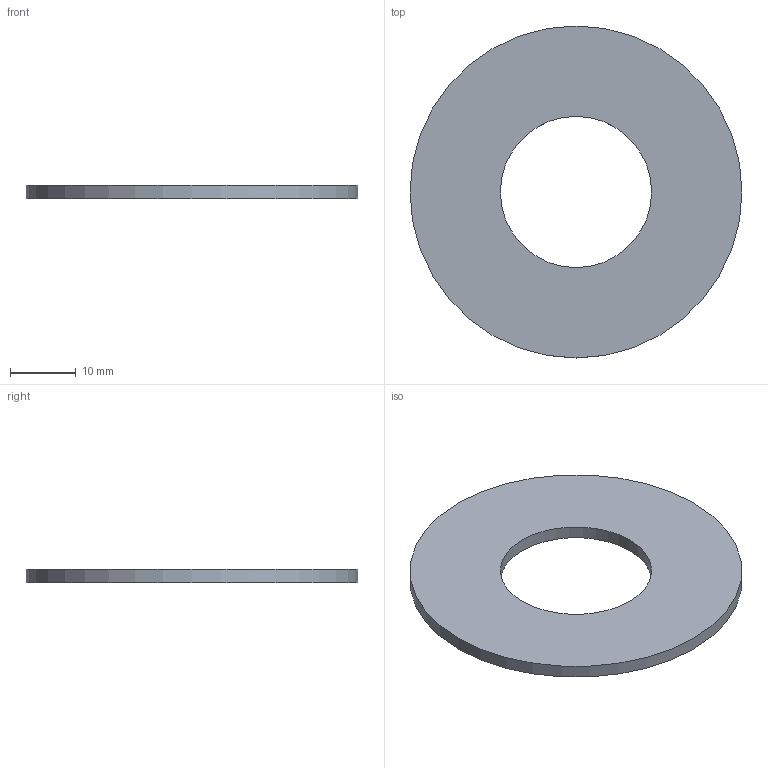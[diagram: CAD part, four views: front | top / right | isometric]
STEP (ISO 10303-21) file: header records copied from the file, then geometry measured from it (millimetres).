
FILE_DESCRIPTION(/* description */ ('購入品'),/* implementation_level */ '2;1');
FILE_NAME(/* name */ 'C:\Users\Fujimoto-s\OneDrive\Inventor\WorkSpace\\X2\305D306E4ED6\X0\\ホームページ用\\X2\30C030A630F330ED30FC30C97D206750\X0\\サニタリー継手\GAS-1.0S-Si\GAS-1.0S-Si.stp',/* time_stamp */ '2024-08-09T10:10:29+09:00',/* author */ ('Fujimoto-s'),/* organization */ (''),/* preprocessor_version */ 'ST-DEVELOPER v15.2',/* originating_system */ 'Autodesk Inventor 2014',/* authorisation */ '');
FILE_SCHEMA (('AUTOMOTIVE_DESIGN { 1 0 10303 214 3 1 1 }'));
Length unit declared in the file: millimetre
Products named in the file (1): GAS-1.0S-Si
Bounding box: 50.5 x 50.5 x 2 mm (x, y, z)
Volume: 3175 mm3; surface area: 3636.8 mm2
Topology: 1 solids, 1 shells, 4 faces, 6 edges, 4 vertices
Faces by surface type: cylinder 2, plane 2
Full cylindrical faces by diameter (mm): 23 x1, 50.5 x1
Entity records: 112 total; most frequent: DIRECTION 18, CARTESIAN_POINT 13, AXIS2_PLACEMENT_3D 9, EDGE_LOOP 8, ORIENTED_EDGE 8, FACE_BOUND 6, CIRCLE 4, VERTEX_POINT 4
